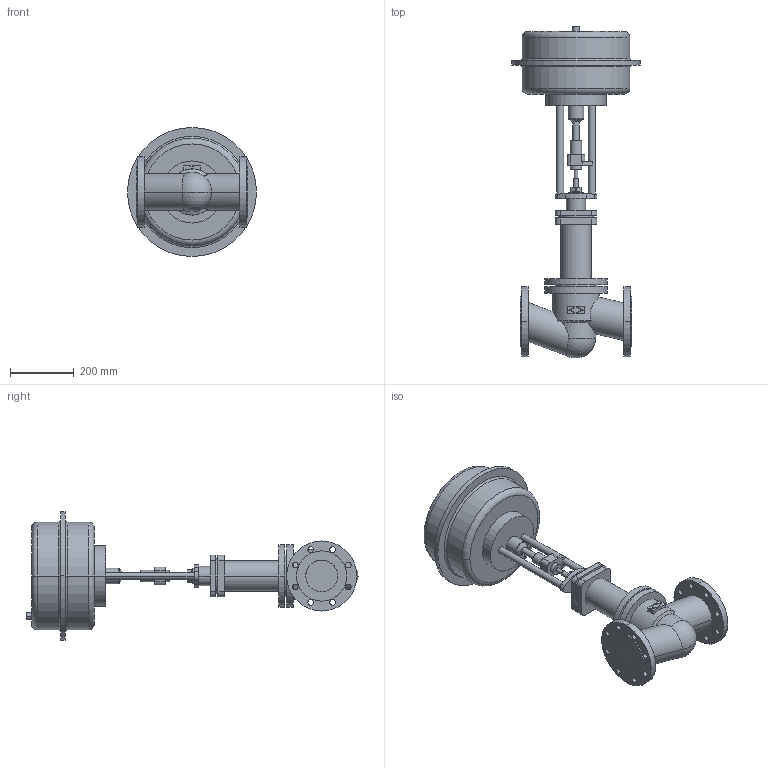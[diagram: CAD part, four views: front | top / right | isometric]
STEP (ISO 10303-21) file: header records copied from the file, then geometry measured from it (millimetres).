
FILE_DESCRIPTION(('OneSpaceDesigner STEP Export'),'2;1');
FILE_NAME('c000002085.stp','2005-12-12T11:27:14',(''),(''),'OneSpace Designer STEP processor for AP203 (Solid Model)','OneSpace Designer 13.20A 18-Aug-2005 (C) CoCreate Software GmbH','');
FILE_SCHEMA(('CONFIG_CONTROL_DESIGN'));
Length unit declared in the file: millimetre
Products named in the file (1): 1
Bounding box: 405 x 1043.17 x 405 mm (x, y, z)
Volume: 29222663.9 mm3; surface area: 1080688.8 mm2
Topology: 1 solids, 1 shells, 209 faces, 517 edges, 340 vertices
Faces by surface type: cylinder 116, plane 77, torus 10, cone 4, sphere 2
Entity records: 5939 total; most frequent: CARTESIAN_POINT 1215, ORIENTED_EDGE 1030, DIRECTION 867, EDGE_CURVE 515, VERTEX_POINT 340, AXIS2_PLACEMENT_3D 313, EDGE_LOOP 277, VECTOR 241
